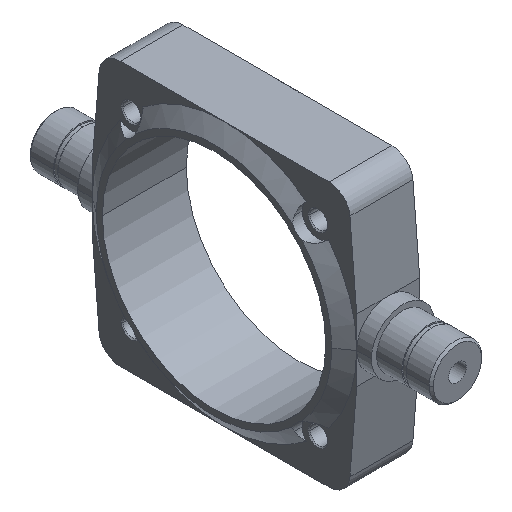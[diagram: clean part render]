
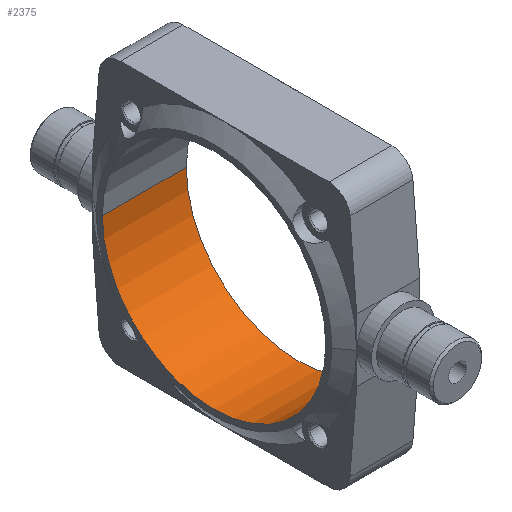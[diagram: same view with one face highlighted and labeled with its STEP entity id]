
A CAD part, isometric view. The second image highlights one B-rep face of the part: STEP entity #2375.
In plain terms, the highlighted cylindrical face has radius 53.25 mm (diameter 106.5 mm), a partial arc.
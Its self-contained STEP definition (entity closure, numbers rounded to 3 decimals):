
#2319=CARTESIAN_POINT('Axis2P3D Location',(0.,0.,0.)) ;
#2328=CARTESIAN_POINT('Vertex',(20.,53.25,0.)) ;
#2330=CARTESIAN_POINT('Vertex',(20.,-53.25,0.)) ;
#2333=CARTESIAN_POINT('Line Origine',(2.5,-53.25,0.)) ;
#2337=CARTESIAN_POINT('Vertex',(-20.,-53.25,0.)) ;
#2344=CARTESIAN_POINT('Vertex',(-20.,53.25,0.)) ;
#2347=CARTESIAN_POINT('Line Origine',(2.5,53.25,0.)) ;
#2359=CARTESIAN_POINT('Axis2P3D Location',(20.,0.,0.)) ;
#2364=CARTESIAN_POINT('Axis2P3D Location',(-20.,0.,0.)) ;
#2320=DIRECTION('Axis2P3D Direction',(1.,0.,0.)) ;
#2321=DIRECTION('Axis2P3D XDirection',(0.,1.,0.)) ;
#2334=DIRECTION('Vector Direction',(1.,0.,0.)) ;
#2348=DIRECTION('Vector Direction',(1.,0.,0.)) ;
#2360=DIRECTION('Axis2P3D Direction',(1.,0.,0.)) ;
#2365=DIRECTION('Axis2P3D Direction',(1.,0.,0.)) ;
#2322=AXIS2_PLACEMENT_3D('Cylinder Axis2P3D',#2319,#2320,#2321) ;
#2361=AXIS2_PLACEMENT_3D('Circle Axis2P3D',#2359,#2360,$) ;
#2366=AXIS2_PLACEMENT_3D('Circle Axis2P3D',#2364,#2365,$) ;
#2370=ORIENTED_EDGE('',*,*,#2363,.T.) ;
#2371=ORIENTED_EDGE('',*,*,#2351,.T.) ;
#2372=ORIENTED_EDGE('',*,*,#2368,.F.) ;
#2373=ORIENTED_EDGE('',*,*,#2339,.F.) ;
#2335=VECTOR('Line Direction',#2334,1.) ;
#2349=VECTOR('Line Direction',#2348,1.) ;
#2375=ADVANCED_FACE('PartBody',(#2374),#2323,.F.) ;
#2362=CIRCLE('generated circle',#2361,53.25) ;
#2367=CIRCLE('generated circle',#2366,53.25) ;
#2323=CYLINDRICAL_SURFACE('generated cylinder',#2322,53.25) ;
#2339=EDGE_CURVE('',#2331,#2338,#2336,.F.) ;
#2351=EDGE_CURVE('',#2329,#2345,#2350,.F.) ;
#2363=EDGE_CURVE('',#2331,#2329,#2362,.T.) ;
#2368=EDGE_CURVE('',#2338,#2345,#2367,.T.) ;
#2369=EDGE_LOOP('',(#2370,#2371,#2372,#2373)) ;
#2374=FACE_OUTER_BOUND('',#2369,.T.) ;
#2336=LINE('Line',#2333,#2335) ;
#2350=LINE('Line',#2347,#2349) ;
#2329=VERTEX_POINT('',#2328) ;
#2331=VERTEX_POINT('',#2330) ;
#2338=VERTEX_POINT('',#2337) ;
#2345=VERTEX_POINT('',#2344) ;
